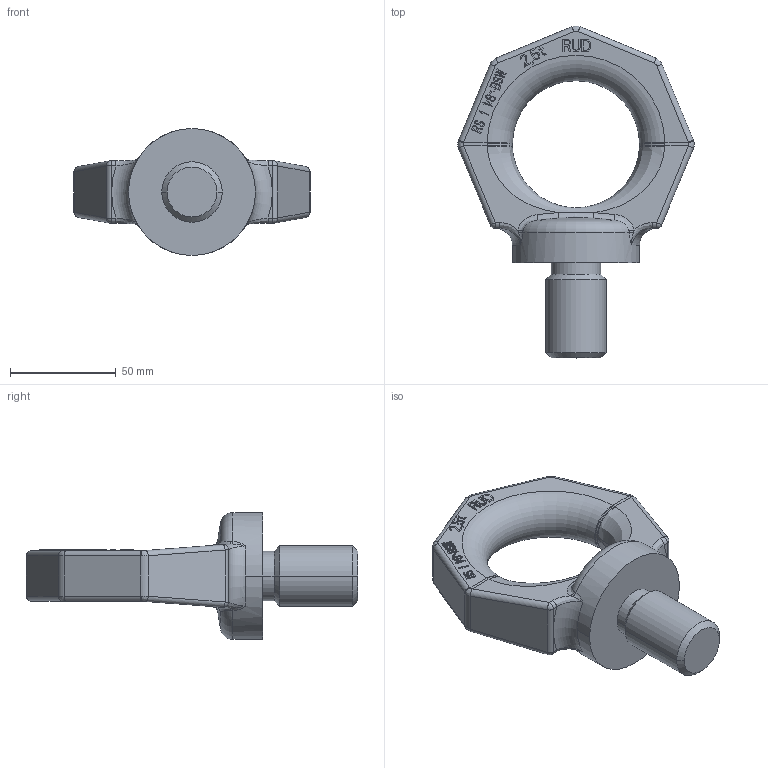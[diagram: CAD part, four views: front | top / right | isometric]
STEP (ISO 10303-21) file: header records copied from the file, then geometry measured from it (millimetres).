
FILE_DESCRIPTION((''),'2;1');
FILE_NAME('001-M31078-X10_ASM','2019-04-04T',('Roland.Jakubetz'),(''),'PRO/ENGINEER BY PARAMETRIC TECHNOLOGY CORPORATION, 2011490','PRO/ENGINEER BY PARAMETRIC TECHNOLOGY CORPORATION, 2011490','');
FILE_SCHEMA(('CONFIG_CONTROL_DESIGN'));
Length unit declared in the file: millimetre
Products named in the file (3): 001-M31078-X10; 001-M31078-Y10; 001-M31078-X10_ASM
Assembly tree (2 placements, depth 2):
  001-M31078-X10_ASM
    001-M31078-X10
    001-M31078-Y10
Bounding box: 111.74 x 156.86 x 60 mm (x, y, z)
Volume: 207346 mm3; surface area: 32330.5 mm2
Topology: 2 solids, 2 shells, 600 faces, 1633 edges, 1060 vertices
Faces by surface type: plane 495, bspline 54, cylinder 36, cone 6, torus 5, sphere 4
Entity records: 21047 total; most frequent: CARTESIAN_POINT 6120, ORIENTED_EDGE 3266, DIRECTION 2765, EDGE_CURVE 1633, VECTOR 1423, LINE 1423, VERTEX_POINT 1060, AXIS2_PLACEMENT_3D 671
